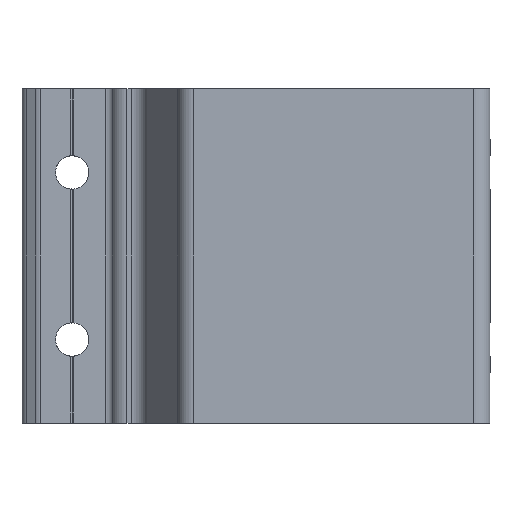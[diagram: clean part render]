
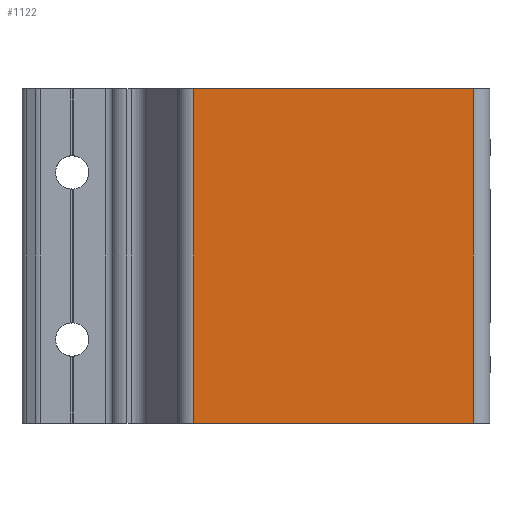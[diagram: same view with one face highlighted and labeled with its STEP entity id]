
A CAD part, left-side view. The second image highlights one B-rep face of the part: STEP entity #1122.
In plain terms, the highlighted planar face has unit normal (-1, 0, 0).
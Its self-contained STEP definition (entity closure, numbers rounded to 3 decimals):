
#1064=CARTESIAN_POINT('',(-187.074,-214.607,80.0));
#1065=VERTEX_POINT('',#1064);
#1073=CARTESIAN_POINT('',(-187.074,-214.607,0.0));
#1074=VERTEX_POINT('',#1073);
#1075=CARTESIAN_POINT('',(-187.074,-214.607,0.0));
#1076=DIRECTION('',(0.0,0.0,1.0));
#1077=VECTOR('',#1076,80.0);
#1078=LINE('',#1075,#1077);
#1079=EDGE_CURVE('',#1074,#1065,#1078,.T.);
#1092=CARTESIAN_POINT('',(-187.074,-214.607,0.0));
#1093=DIRECTION('',(-1.0,0.0,0.0));
#1094=DIRECTION('',(0.0,0.0,1.0));
#1095=AXIS2_PLACEMENT_3D('',#1092,#1093,#1094);
#1096=PLANE('',#1095);
#1097=CARTESIAN_POINT('',(-187.074,-147.767,80.0));
#1098=VERTEX_POINT('',#1097);
#1099=CARTESIAN_POINT('',(-187.074,-214.607,80.0));
#1100=DIRECTION('',(0.0,1.0,0.0));
#1101=VECTOR('',#1100,66.841);
#1102=LINE('',#1099,#1101);
#1103=EDGE_CURVE('',#1065,#1098,#1102,.T.);
#1104=ORIENTED_EDGE('',*,*,#1103,.T.);
#1105=CARTESIAN_POINT('',(-187.074,-147.767,0.0));
#1106=VERTEX_POINT('',#1105);
#1107=CARTESIAN_POINT('',(-187.074,-147.767,0.0));
#1108=DIRECTION('',(0.0,0.0,1.0));
#1109=VECTOR('',#1108,80.0);
#1110=LINE('',#1107,#1109);
#1111=EDGE_CURVE('',#1106,#1098,#1110,.T.);
#1112=ORIENTED_EDGE('',*,*,#1111,.F.);
#1113=CARTESIAN_POINT('',(-187.074,-214.607,0.0));
#1114=DIRECTION('',(0.0,1.0,0.0));
#1115=VECTOR('',#1114,66.841);
#1116=LINE('',#1113,#1115);
#1117=EDGE_CURVE('',#1074,#1106,#1116,.T.);
#1118=ORIENTED_EDGE('',*,*,#1117,.F.);
#1119=ORIENTED_EDGE('',*,*,#1079,.T.);
#1120=EDGE_LOOP('',(#1104,#1112,#1118,#1119));
#1121=FACE_OUTER_BOUND('',#1120,.T.);
#1122=ADVANCED_FACE('',(#1121),#1096,.T.);
